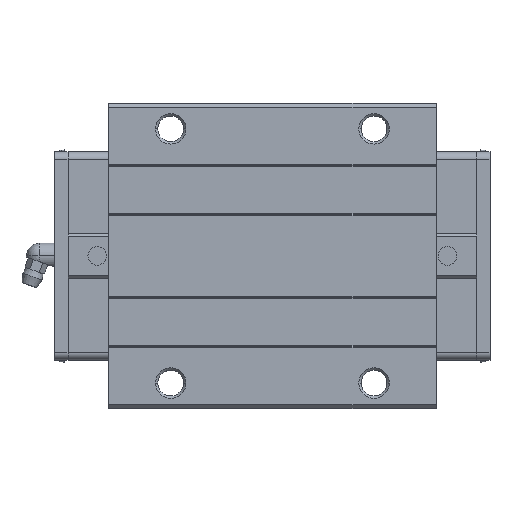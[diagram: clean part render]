
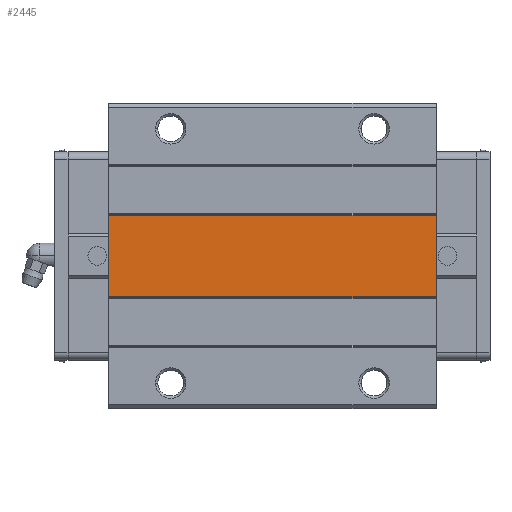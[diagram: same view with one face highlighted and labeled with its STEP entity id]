
A CAD part, top view. The second image highlights one B-rep face of the part: STEP entity #2445.
In plain terms, the highlighted planar face has unit normal (0, 0, 1).
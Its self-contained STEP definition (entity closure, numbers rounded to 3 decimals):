
#2384=CARTESIAN_POINT('POINT157',(150.,-16.05,50.5));
#2385=VERTEX_POINT('VERTEX157',#2384);
#2392=CARTESIAN_POINT('POINT158',(21.2,-16.05,50.5));
#2393=VERTEX_POINT('VERTEX158',#2392);
#2394=CARTESIAN_POINT('POS239',(21.2,-16.05,50.5));
#2395=DIRECTION('DIR341',(1.,0.,0.));
#2396=VECTOR('VEC137',#2395,1.);
#2397=LINE('STRAIGHT137',#2394,#2396);
#2398=EDGE_CURVE('EDGE231',#2393,#2385,#2397,.T.);
#2415=CARTESIAN_POINT('POINT159',(150.,16.05,
   50.5));
#2416=VERTEX_POINT('VERTEX159',#2415);
#2417=CARTESIAN_POINT('POS242',(150.,16.05,
   50.5));
#2418=DIRECTION('DIR345',(0.,1.,0.));
#2419=VECTOR('VEC139',#2418,1.);
#2420=LINE('STRAIGHT139',#2417,#2419);
#2421=EDGE_CURVE('EDGE233',#2385,#2416,#2420,.T.);
#2422=ORIENTED_EDGE('COEDGE396',*,*,#2421,.T.);
#2423=CARTESIAN_POINT('POINT160',(21.2,16.05,
   50.5));
#2424=VERTEX_POINT('VERTEX160',#2423);
#2425=CARTESIAN_POINT('POS243',(21.2,16.05,
   50.5));
#2426=DIRECTION('DIR346',(1.,0.,0.));
#2427=VECTOR('VEC140',#2426,1.);
#2428=LINE('STRAIGHT140',#2425,#2427);
#2429=EDGE_CURVE('EDGE234',#2424,#2416,#2428,.T.);
#2430=ORIENTED_EDGE('COEDGE397',*,*,#2429,.F.);
#2431=CARTESIAN_POINT('POS244',(21.2,16.05,
   50.5));
#2432=DIRECTION('DIR347',(0.,-1.,0.));
#2433=VECTOR('VEC141',#2432,1.);
#2434=LINE('STRAIGHT141',#2431,#2433);
#2435=EDGE_CURVE('EDGE235',#2424,#2393,#2434,.T.);
#2436=ORIENTED_EDGE('COEDGE398',*,*,#2435,.T.);
#2437=ORIENTED_EDGE('COEDGE399',*,*,#2398,.T.);
#2438=EDGE_LOOP('NONE',(#2422,#2430,#2436,#2437));
#2439=FACE_BOUND('LOOP1',#2438,.T.);
#2440=CARTESIAN_POINT('POS245',(21.2,-16.05,50.5));
#2441=DIRECTION('DIR348',(0.,0.,1.));
#2442=DIRECTION('DIR349',(1.,0.,0.));
#2443=AXIS2_PLACEMENT_3D('AXIS104',#2440,#2441,#2442);
#2444=PLANE('PLANE28',#2443);
#2445=ADVANCED_FACE('FACE77',(#2439),#2444,.T.);
